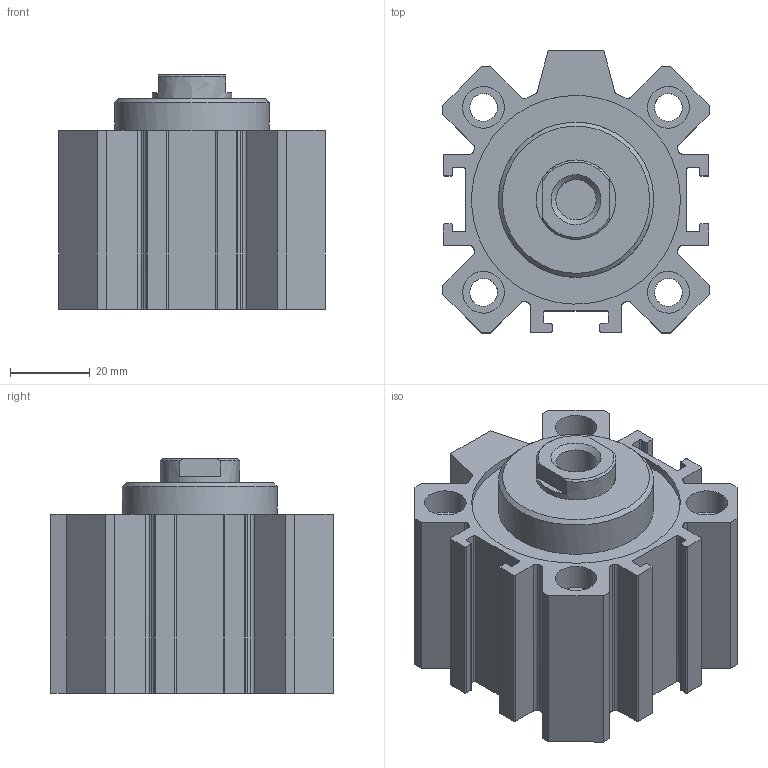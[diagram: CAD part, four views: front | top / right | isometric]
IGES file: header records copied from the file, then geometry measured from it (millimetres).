
Global section: file name: 1511_50_0005; native system: Autodesk Inventor 2014; preprocessor: unknown; author: A. Manieri; date: 20160824.133942; units: millimetre
Bounding box: 67 x 71 x 59 mm (x, y, z)
Volume: 153568.3 mm3; surface area: 47262.2 mm2
Topology: 2 solids, 2 shells, 165 faces, 443 edges, 300 vertices
Faces by surface type: bspline 165
